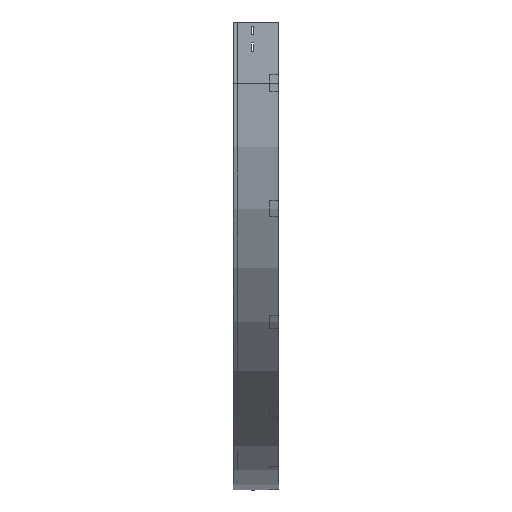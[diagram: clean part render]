
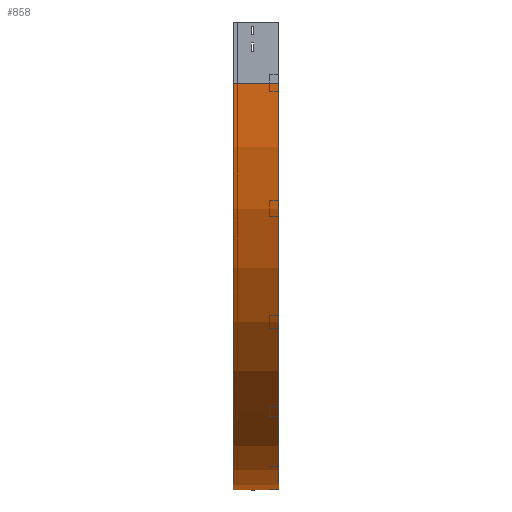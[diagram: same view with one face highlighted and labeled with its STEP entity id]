
A CAD part, left-side view. The second image highlights one B-rep face of the part: STEP entity #858.
In plain terms, the highlighted cylindrical face has radius 1000 mm (diameter 2000 mm), a partial arc.
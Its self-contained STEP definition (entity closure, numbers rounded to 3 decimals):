
#33 = DIRECTION ( 'NONE',  ( -1., 0., 0. ) ) ;
#82 = VERTEX_POINT ( 'NONE', #3162 ) ;
#345 = AXIS2_PLACEMENT_3D ( 'NONE', #2421, #2716, #33 ) ;
#455 = ORIENTED_EDGE ( 'NONE', *, *, #2464, .T. ) ;
#554 = DIRECTION ( 'NONE',  ( 0., -1., 0. ) ) ;
#580 = EDGE_CURVE ( 'NONE', #1465, #809, #2040, .T. ) ;
#647 = VECTOR ( 'NONE', #554, 1000. ) ;
#803 = LINE ( 'NONE', #2005, #1687 ) ;
#809 = VERTEX_POINT ( 'NONE', #3829 ) ;
#830 = DIRECTION ( 'NONE',  ( 0., 0., -1. ) ) ;
#858 = ADVANCED_FACE ( 'NONE', ( #3850 ), #2599, .T. ) ;
#1035 = CARTESIAN_POINT ( 'NONE',  ( 0., 0., -150. ) ) ;
#1099 = DIRECTION ( 'NONE',  ( 0., -1., 0. ) ) ;
#1157 = CARTESIAN_POINT ( 'NONE',  ( 1000., 0., -150. ) ) ;
#1259 = ORIENTED_EDGE ( 'NONE', *, *, #580, .F. ) ;
#1465 = VERTEX_POINT ( 'NONE', #1035 ) ;
#1486 = ORIENTED_EDGE ( 'NONE', *, *, #1591, .F. ) ;
#1591 = EDGE_CURVE ( 'NONE', #3699, #1465, #803, .T. ) ;
#1672 = AXIS2_PLACEMENT_3D ( 'NONE', #2049, #3254, #2372 ) ;
#1687 = VECTOR ( 'NONE', #1710, 1000. ) ;
#1710 = DIRECTION ( 'NONE',  ( 0., -1., 0. ) ) ;
#2005 = CARTESIAN_POINT ( 'NONE',  ( 0., 0., -150. ) ) ;
#2040 = CIRCLE ( 'NONE', #345, 1000. ) ;
#2049 = CARTESIAN_POINT ( 'NONE',  ( 1000., 112.5, -150. ) ) ;
#2372 = DIRECTION ( 'NONE',  ( -1., 0., 0. ) ) ;
#2406 = CIRCLE ( 'NONE', #1672, 1000. ) ;
#2421 = CARTESIAN_POINT ( 'NONE',  ( 1000., 0., -150. ) ) ;
#2437 = EDGE_LOOP ( 'NONE', ( #1259, #1486, #2445, #455 ) ) ;
#2445 = ORIENTED_EDGE ( 'NONE', *, *, #3243, .T. ) ;
#2464 = EDGE_CURVE ( 'NONE', #82, #809, #3239, .T. ) ;
#2599 = CYLINDRICAL_SURFACE ( 'NONE', #2622, 1000. ) ;
#2622 = AXIS2_PLACEMENT_3D ( 'NONE', #1157, #1099, #830 ) ;
#2716 = DIRECTION ( 'NONE',  ( 0., -1., 0. ) ) ;
#3162 = CARTESIAN_POINT ( 'NONE',  ( 1000., 112.5, -1150. ) ) ;
#3239 = LINE ( 'NONE', #3847, #647 ) ;
#3243 = EDGE_CURVE ( 'NONE', #3699, #82, #2406, .T. ) ;
#3254 = DIRECTION ( 'NONE',  ( 0., -1., 0. ) ) ;
#3699 = VERTEX_POINT ( 'NONE', #3822 ) ;
#3822 = CARTESIAN_POINT ( 'NONE',  ( 0., 112.5, -150. ) ) ;
#3829 = CARTESIAN_POINT ( 'NONE',  ( 1000., 0., -1150. ) ) ;
#3847 = CARTESIAN_POINT ( 'NONE',  ( 1000., 0., -1150. ) ) ;
#3850 = FACE_OUTER_BOUND ( 'NONE', #2437, .T. ) ;
